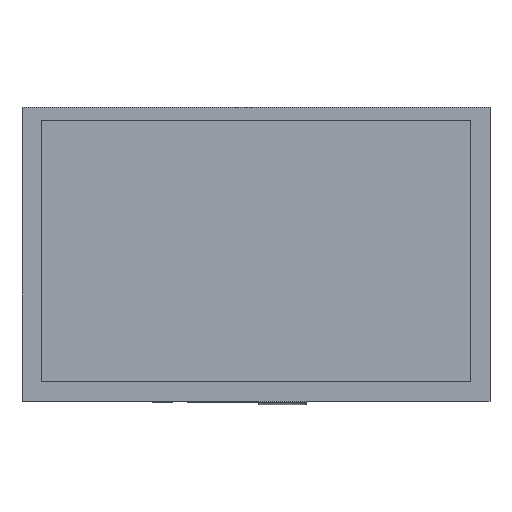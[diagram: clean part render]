
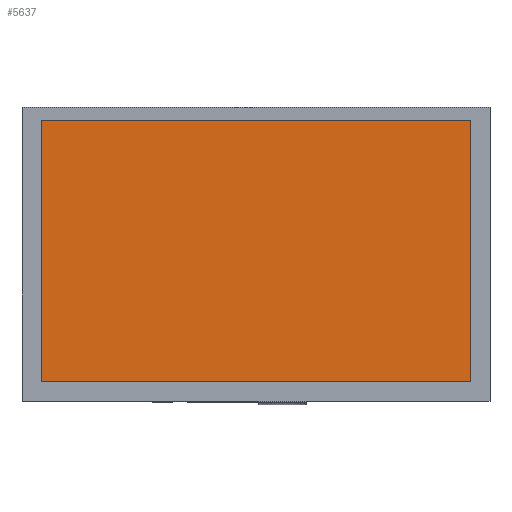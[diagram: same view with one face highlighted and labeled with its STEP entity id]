
A CAD part, top view. The second image highlights one B-rep face of the part: STEP entity #5637.
In plain terms, the highlighted planar face has unit normal (0, 0, 1).
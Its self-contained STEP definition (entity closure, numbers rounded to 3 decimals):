
#5637=ADVANCED_FACE('',(#10909),#10910,.T.);
#10909=FACE_OUTER_BOUND('',#16401,.T.);
#10910=PLANE('',#16402);
#16401=EDGE_LOOP('',(#30225,#30226,#30227,#30228));
#16402=AXIS2_PLACEMENT_3D('',#30229,#30230,#30231);
#30225=ORIENTED_EDGE('',*,*,#36069,.T.);
#30226=ORIENTED_EDGE('',*,*,#36070,.T.);
#30227=ORIENTED_EDGE('',*,*,#36071,.T.);
#30228=ORIENTED_EDGE('',*,*,#36072,.T.);
#30229=CARTESIAN_POINT('',(60.35,38.7,4.729));
#30230=DIRECTION('',(0.0,0.0,1.0));
#30231=DIRECTION('',(1.0,0.0,0.0));
#36069=EDGE_CURVE('',#43856,#43857,#43858,.T.);
#36070=EDGE_CURVE('',#43857,#43859,#43860,.T.);
#36071=EDGE_CURVE('',#43859,#43861,#43862,.T.);
#36072=EDGE_CURVE('',#43861,#43856,#43863,.T.);
#43856=VERTEX_POINT('',#53867);
#43857=VERTEX_POINT('',#53868);
#43858=LINE('',#53869,#53870);
#43859=VERTEX_POINT('',#53871);
#43860=LINE('',#53872,#53873);
#43861=VERTEX_POINT('',#53874);
#43862=LINE('',#53875,#53876);
#43863=LINE('',#53877,#53878);
#53867=CARTESIAN_POINT('',(115.7,5.,4.729));
#53868=CARTESIAN_POINT('',(115.7,72.4,4.729));
#53869=CARTESIAN_POINT('',(115.7,38.7,4.729));
#53870=VECTOR('',#60976,1.0);
#53871=CARTESIAN_POINT('',(5.,72.4,4.729));
#53872=CARTESIAN_POINT('',(60.35,72.4,4.729));
#53873=VECTOR('',#60977,1.0);
#53874=CARTESIAN_POINT('',(5.,5.,4.729));
#53875=CARTESIAN_POINT('',(5.,38.7,4.729));
#53876=VECTOR('',#60978,1.0);
#53877=CARTESIAN_POINT('',(60.35,5.,4.729));
#53878=VECTOR('',#60979,1.0);
#60976=DIRECTION('',(0.0,1.0,0.0));
#60977=DIRECTION('',(-1.0,0.0,0.0));
#60978=DIRECTION('',(0.0,-1.0,0.0));
#60979=DIRECTION('',(1.0,0.0,0.0));
